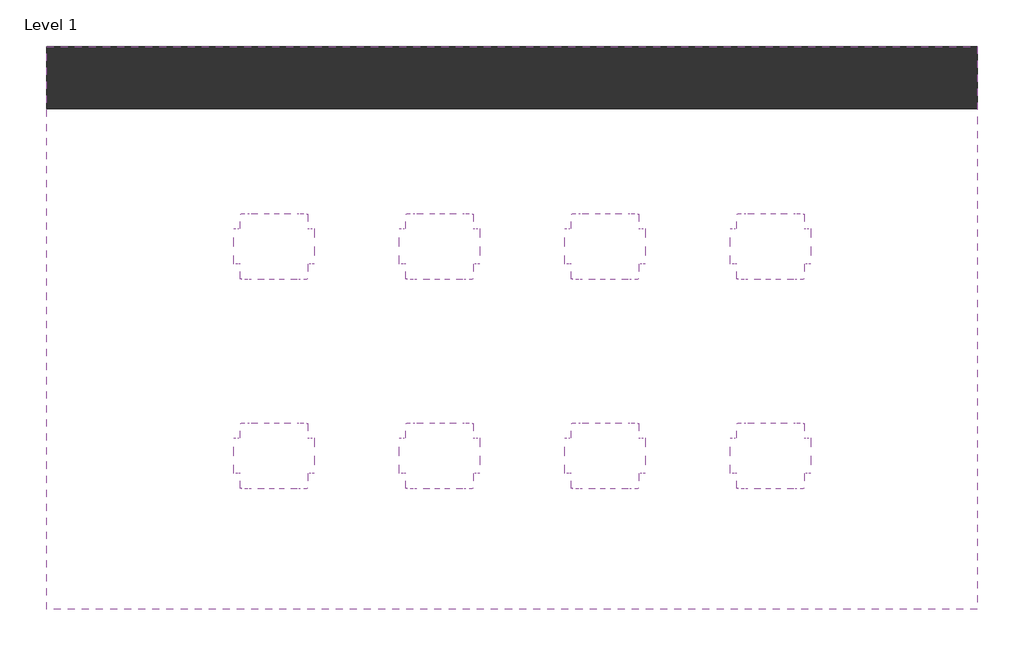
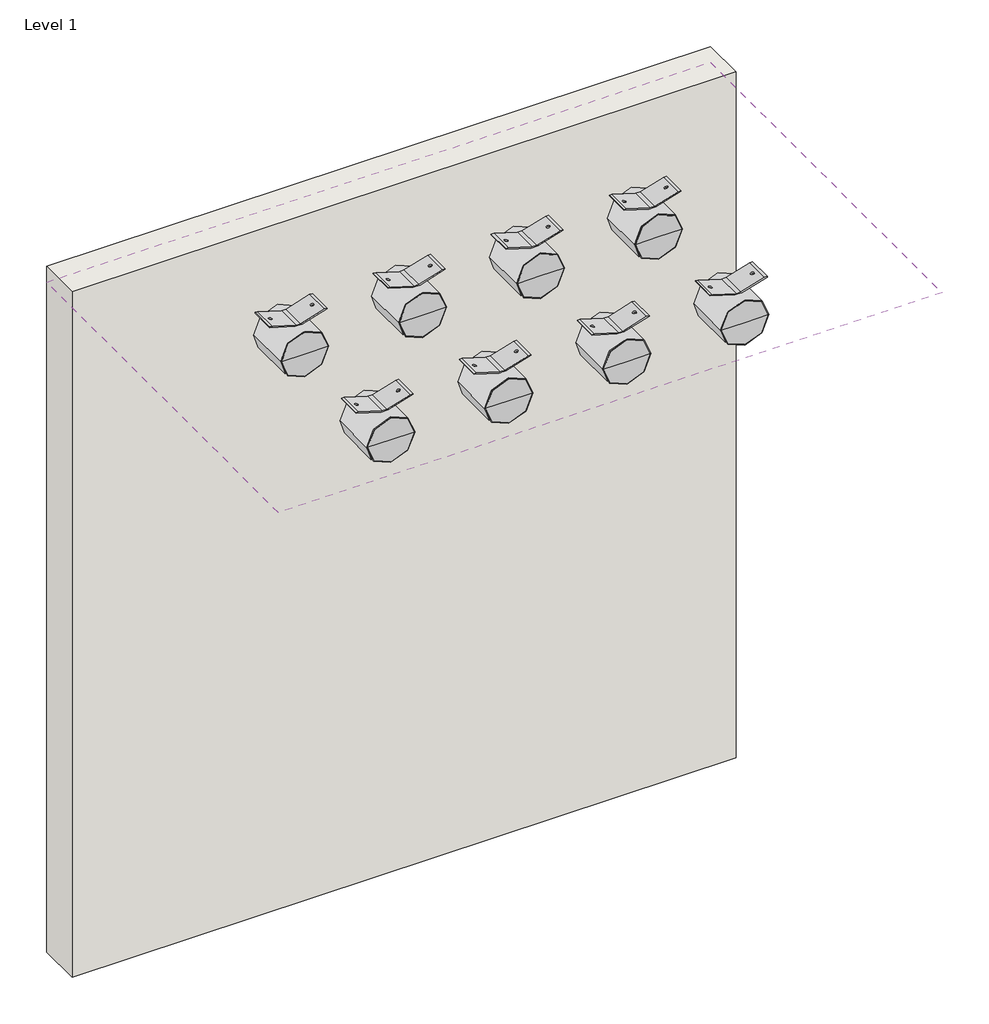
# One storey: 8 proxies, 1 covering, 1 wall.
"""IFC4 building model written with IfcOpenShell, lengths in millimetres."""

from ifc_helpers import new_model, si_unit, frame, origin, origin_with_axes, place, context, project, spatial, polyline, outline, extrude, transform, mapped, element, save
from components import communication_devices_3f4bb34d

model = new_model("IFC4")

# Units and contexts
model_context = context("Model", 3, world=origin())
ifc_project = project(units=[si_unit("LENGTHUNIT", "METRE", prefix="MILLI")], contexts=[model_context])

# Site, building, storey
site = spatial("IfcSite", under=ifc_project)
building = spatial("IfcBuilding", under=site)
storey = spatial("IfcBuildingStorey", under=building, Name="Level 1", Elevation=0.0)

# Proxies
placement = place(None, origin())
communication_devices_shape = communication_devices_3f4bb34d(model_context)
element("IfcBuildingElementProxy", 1, Name="230208 BIM Data_IMPI 2510T VA : IMPI 2510 VA", ObjectType="230208 BIM Data_IMPI 2510T VA : IMPI 2510 VA", at=placement, inside=storey, context=model_context, shape_type="MappedRepresentation", body=[
    mapped(communication_devices_shape, transform((2391.9973575, 1029.7266815, 2438.4), x_axis=(1.0, 0.0, 0.0), y_axis=(0.0, 1.0, 0.0), z_axis=(0.0, 0.0, 1.0))),
])
element("IfcBuildingElementProxy", 2, Name="230208 BIM Data_IMPI 2510T VA : IMPI 2510 VA", ObjectType="230208 BIM Data_IMPI 2510T VA : IMPI 2510 VA", at=placement, inside=storey, context=model_context, shape_type="MappedRepresentation", body=[
    mapped(communication_devices_shape, transform((2798.3973575, 1029.7266815, 2438.4), x_axis=(1.0, 0.0, 0.0), y_axis=(0.0, 1.0, 0.0), z_axis=(0.0, 0.0, 1.0))),
])
element("IfcBuildingElementProxy", 3, Name="230208 BIM Data_IMPI 2510T VA : IMPI 2510 VA", ObjectType="230208 BIM Data_IMPI 2510T VA : IMPI 2510 VA", at=placement, inside=storey, context=model_context, shape_type="MappedRepresentation", body=[
    mapped(communication_devices_shape, transform((3204.7973575, 1029.7266815, 2438.4), x_axis=(1.0, 0.0, 0.0), y_axis=(0.0, 1.0, 0.0), z_axis=(0.0, 0.0, 1.0))),
])
element("IfcBuildingElementProxy", 4, Name="230208 BIM Data_IMPI 2510T VA : IMPI 2510 VA", ObjectType="230208 BIM Data_IMPI 2510T VA : IMPI 2510 VA", at=placement, inside=storey, context=model_context, shape_type="MappedRepresentation", body=[
    mapped(communication_devices_shape, transform((3611.1973575, 1029.7266815, 2438.4), x_axis=(1.0, 0.0, 0.0), y_axis=(0.0, 1.0, 0.0), z_axis=(0.0, 0.0, 1.0))),
])
element("IfcBuildingElementProxy", 5, Name="230208 BIM Data_IMPI 2510T VA : IMPI 2510 VA", ObjectType="230208 BIM Data_IMPI 2510T VA : IMPI 2510 VA", at=placement, inside=storey, context=model_context, shape_type="MappedRepresentation", body=[
    mapped(communication_devices_shape, transform((2391.9973575, 1544.0766815, 2438.4), x_axis=(1.0, 0.0, 0.0), y_axis=(0.0, 1.0, 0.0), z_axis=(0.0, 0.0, 1.0))),
])
element("IfcBuildingElementProxy", 6, Name="230208 BIM Data_IMPI 2510T VA : IMPI 2510 VA", ObjectType="230208 BIM Data_IMPI 2510T VA : IMPI 2510 VA", at=placement, inside=storey, context=model_context, shape_type="MappedRepresentation", body=[
    mapped(communication_devices_shape, transform((2798.3973575, 1544.0766815, 2438.4), x_axis=(1.0, 0.0, 0.0), y_axis=(0.0, 1.0, 0.0), z_axis=(0.0, 0.0, 1.0))),
])
element("IfcBuildingElementProxy", 7, Name="230208 BIM Data_IMPI 2510T VA : IMPI 2510 VA", ObjectType="230208 BIM Data_IMPI 2510T VA : IMPI 2510 VA", at=placement, inside=storey, context=model_context, shape_type="MappedRepresentation", body=[
    mapped(communication_devices_shape, transform((3204.7973575, 1544.0766815, 2438.4), x_axis=(1.0, 0.0, 0.0), y_axis=(0.0, 1.0, 0.0), z_axis=(0.0, 0.0, 1.0))),
])
element("IfcBuildingElementProxy", 8, Name="230208 BIM Data_IMPI 2510T VA : IMPI 2510 VA", ObjectType="230208 BIM Data_IMPI 2510T VA : IMPI 2510 VA", at=placement, inside=storey, context=model_context, shape_type="MappedRepresentation", body=[
    mapped(communication_devices_shape, transform((3611.1973575, 1544.0766815, 2438.4), x_axis=(1.0, 0.0, 0.0), y_axis=(0.0, 1.0, 0.0), z_axis=(0.0, 0.0, 1.0))),
])

# Covering
element("IfcCovering", 9, ObjectType="2' x 4' ACT System", at=placement, inside=storey, context=model_context, shape_type="SweptSolid", body=[
    extrude(outline(polyline([(4119.1973575, 2115.5766815), (4119.1973575, 732.2741036), (1833.1973575, 732.2741036), (1833.1973575, 2115.5766815), (4119.1973575, 2115.5766815)])), frame((0.0, 0.0, 2438.4), z_axis=(0.0, 0.0, 1.0), x_axis=(1.0, 0.0, 0.0)), (0.0, 0.0, 1.0), 57.15),
])

# Wall
element("IfcWall", 10, ObjectType="Exterior - 6\" Generic", at=placement, inside=storey, context=model_context, shape_type="SweptSolid", body=[
    extrude(outline(polyline([(4119.1973575, 1963.1766815), (1833.1973575, 1963.1766815), (1833.1973575, 2115.5766815), (4119.1973575, 2115.5766815), (4119.1973575, 1963.1766815)])), origin_with_axes(), (0.0, 0.0, 1.0), 2495.55),
])

save(model, "model.ifc")
